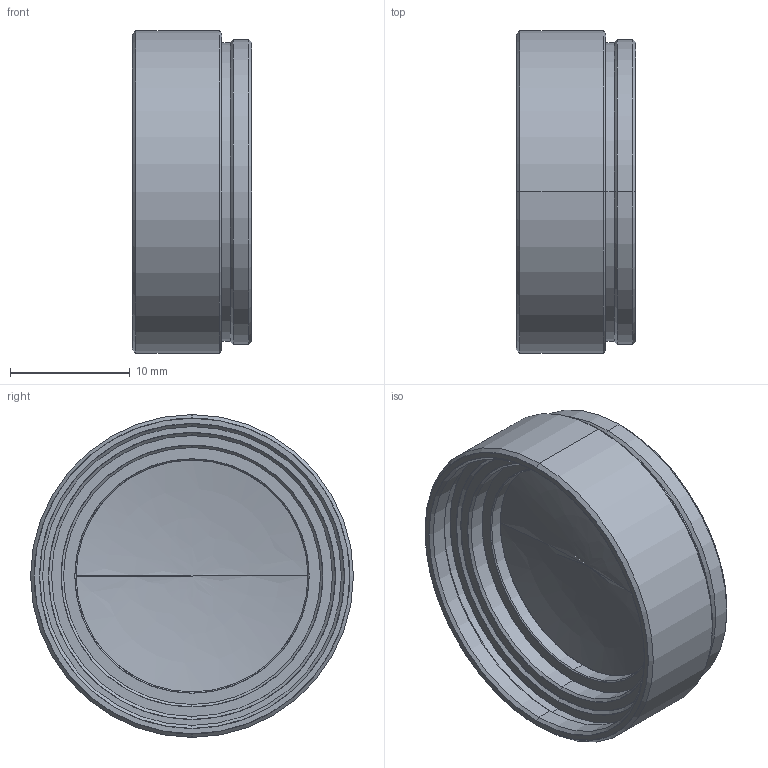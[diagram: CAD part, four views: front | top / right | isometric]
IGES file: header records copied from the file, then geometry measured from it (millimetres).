
Start section: SolidWorks IGES file using analytic representation for surfaces
Global section: file name: C:\Users\tsuji_vst\Documents\【作業フォルダ】\【3D】\00 VST\VSZ\VSZ-04X\VSZ-04X.IGS; native system: SolidWorks 2018; preprocessor: SolidWorks 2018; author: tsuji_vst; date: 191119.094834; units: millimetre
Bounding box: 10 x 27 x 27 mm (x, y, z)
Surface area: 2384.5 mm2 (no closed solid volume)
Topology: 0 solids, 0 shells, 48 faces, 560 edges, 559 vertices
Faces by surface type: revolution 42, bspline 6
